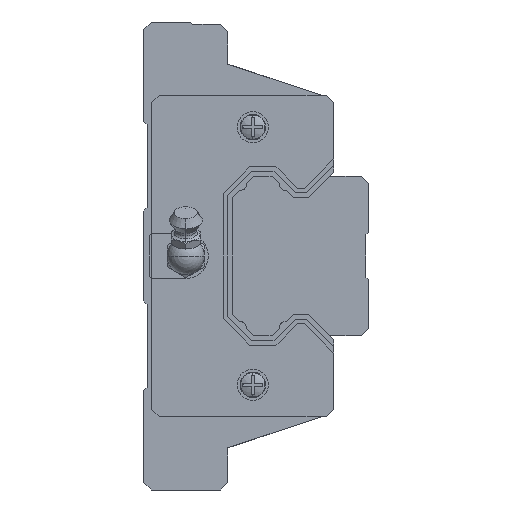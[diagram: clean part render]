
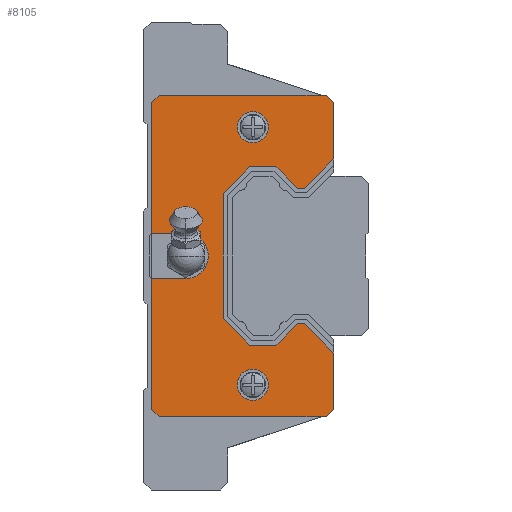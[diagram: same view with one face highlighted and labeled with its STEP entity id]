
A CAD part, left-side view. The second image highlights one B-rep face of the part: STEP entity #8105.
In plain terms, the highlighted planar face has unit normal (-1, 0, 0) as drawn and (1, 0, 0) by its records, which use the part's own axes.
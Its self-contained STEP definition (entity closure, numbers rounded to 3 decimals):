
#6867=DIRECTION('',(0.,0.,-1.));
#6868=VECTOR('',#6867,11.995);
#6869=CARTESIAN_POINT('',(3.,7.4,32.73));
#6870=LINE('',#6869,#6868);
#6923=DIRECTION('',(0.,-0.707,0.707));
#6924=VECTOR('',#6923,8.812);
#6925=CARTESIAN_POINT('',(3.,13.631,14.504));
#6926=LINE('',#6925,#6924);
#6927=DIRECTION('',(0.,0.707,0.707));
#6928=VECTOR('',#6927,2.291);
#6929=CARTESIAN_POINT('',(3.,7.4,32.73));
#6930=LINE('',#6929,#6928);
#6931=DIRECTION('',(0.,0.707,-0.707));
#6932=VECTOR('',#6931,2.291);
#6933=CARTESIAN_POINT('',(3.,44.68,34.35));
#6934=LINE('',#6933,#6932);
#6935=DIRECTION('',(0.,-1.,0.));
#6936=VECTOR('',#6935,7.3);
#6937=CARTESIAN_POINT('',(3.,46.3,4.8));
#6938=LINE('',#6937,#6936);
#6939=CARTESIAN_POINT('',(3.,39.,0.));
#6940=DIRECTION('',(1.,0.,0.));
#6941=DIRECTION('',(0.,0.,1.));
#6942=AXIS2_PLACEMENT_3D('',#6939,#6940,#6941);
#6944=DIRECTION('',(0.,1.,0.));
#6945=VECTOR('',#6944,7.3);
#6946=CARTESIAN_POINT('',(3.,39.,-4.8));
#6947=LINE('',#6946,#6945);
#6948=DIRECTION('',(0.,-0.707,-0.707));
#6949=VECTOR('',#6948,2.291);
#6950=CARTESIAN_POINT('',(3.,46.3,-32.73));
#6951=LINE('',#6950,#6949);
#6952=DIRECTION('',(0.,-0.707,0.707));
#6953=VECTOR('',#6952,2.291);
#6954=CARTESIAN_POINT('',(3.,9.02,-34.35));
#6955=LINE('',#6954,#6953);
#6956=DIRECTION('',(0.,0.707,0.707));
#6957=VECTOR('',#6956,8.812);
#6958=CARTESIAN_POINT('',(3.,7.4,-20.735));
#6959=LINE('',#6958,#6957);
#6960=DIRECTION('',(0.,1.,0.));
#6961=VECTOR('',#6960,1.564);
#6962=CARTESIAN_POINT('',(3.,13.631,-14.504));
#6963=LINE('',#6962,#6961);
#6964=DIRECTION('',(0.,0.707,-0.707));
#6965=VECTOR('',#6964,6.415);
#6966=CARTESIAN_POINT('',(3.,15.195,-14.504));
#6967=LINE('',#6966,#6965);
#6968=DIRECTION('',(0.,1.,0.));
#6969=VECTOR('',#6968,5.578);
#6970=CARTESIAN_POINT('',(3.,19.731,-19.04));
#6971=LINE('',#6970,#6969);
#6972=DIRECTION('',(0.,0.707,0.707));
#6973=VECTOR('',#6972,8.105);
#6974=CARTESIAN_POINT('',(3.,25.309,-19.04));
#6975=LINE('',#6974,#6973);
#6976=DIRECTION('',(0.,0.,1.));
#6977=VECTOR('',#6976,26.618);
#6978=CARTESIAN_POINT('',(3.,31.04,-13.309));
#6979=LINE('',#6978,#6977);
#6980=DIRECTION('',(0.,-0.707,0.707));
#6981=VECTOR('',#6980,8.105);
#6982=CARTESIAN_POINT('',(3.,31.04,13.309));
#6983=LINE('',#6982,#6981);
#6984=DIRECTION('',(0.,-1.,0.));
#6985=VECTOR('',#6984,5.578);
#6986=CARTESIAN_POINT('',(3.,25.309,19.04));
#6987=LINE('',#6986,#6985);
#6988=DIRECTION('',(0.,-0.707,-0.707));
#6989=VECTOR('',#6988,6.415);
#6990=CARTESIAN_POINT('',(3.,19.731,19.04));
#6991=LINE('',#6990,#6989);
#6992=DIRECTION('',(0.,-1.,0.));
#6993=VECTOR('',#6992,1.564);
#6994=CARTESIAN_POINT('',(3.,15.195,14.504));
#6995=LINE('',#6994,#6993);
#6996=CARTESIAN_POINT('',(3.,24.68,27.54));
#6997=DIRECTION('',(1.,0.,0.));
#6998=DIRECTION('',(0.,0.,-1.));
#6999=AXIS2_PLACEMENT_3D('',#6996,#6997,#6998);
#7001=CARTESIAN_POINT('',(3.,24.68,27.54));
#7002=DIRECTION('',(1.,0.,0.));
#7003=DIRECTION('',(0.,0.,1.));
#7004=AXIS2_PLACEMENT_3D('',#7001,#7002,#7003);
#7006=CARTESIAN_POINT('',(3.,24.68,-27.54));
#7007=DIRECTION('',(1.,0.,0.));
#7008=DIRECTION('',(0.,0.,-1.));
#7009=AXIS2_PLACEMENT_3D('',#7006,#7007,#7008);
#7011=CARTESIAN_POINT('',(3.,24.68,-27.54));
#7012=DIRECTION('',(1.,0.,0.));
#7013=DIRECTION('',(0.,0.,1.));
#7014=AXIS2_PLACEMENT_3D('',#7011,#7012,#7013);
#7280=DIRECTION('',(0.,0.,-1.));
#7281=VECTOR('',#7280,11.995);
#7282=CARTESIAN_POINT('',(3.,7.4,-20.735));
#7283=LINE('',#7282,#7281);
#7356=DIRECTION('',(0.,1.,0.));
#7357=VECTOR('',#7356,35.66);
#7358=CARTESIAN_POINT('',(3.,9.02,-34.35));
#7359=LINE('',#7358,#7357);
#7368=DIRECTION('',(0.,0.,1.));
#7369=VECTOR('',#7368,27.93);
#7370=CARTESIAN_POINT('',(3.,46.3,4.8));
#7371=LINE('',#7370,#7369);
#7376=DIRECTION('',(0.,0.,1.));
#7377=VECTOR('',#7376,27.93);
#7378=CARTESIAN_POINT('',(3.,46.3,-32.73));
#7379=LINE('',#7378,#7377);
#7392=DIRECTION('',(0.,-1.,0.));
#7393=VECTOR('',#7392,35.66);
#7394=CARTESIAN_POINT('',(3.,44.68,34.35));
#7395=LINE('',#7394,#7393);
#7657=CARTESIAN_POINT('',(3.,7.4,32.73));
#7658=VERTEX_POINT('',#7657);
#7659=CARTESIAN_POINT('',(3.,7.4,20.735));
#7660=VERTEX_POINT('',#7659);
#7703=CARTESIAN_POINT('',(3.,13.631,14.504));
#7704=VERTEX_POINT('',#7703);
#7705=CARTESIAN_POINT('',(3.,9.02,34.35));
#7706=VERTEX_POINT('',#7705);
#7707=CARTESIAN_POINT('',(3.,44.68,34.35));
#7708=VERTEX_POINT('',#7707);
#7709=CARTESIAN_POINT('',(3.,46.3,32.73));
#7710=VERTEX_POINT('',#7709);
#7711=CARTESIAN_POINT('',(3.,46.3,4.8));
#7712=VERTEX_POINT('',#7711);
#7713=CARTESIAN_POINT('',(3.,39.,4.8));
#7714=VERTEX_POINT('',#7713);
#7715=CARTESIAN_POINT('',(3.,39.,-4.8));
#7716=VERTEX_POINT('',#7715);
#7717=CARTESIAN_POINT('',(3.,46.3,-4.8));
#7718=VERTEX_POINT('',#7717);
#7719=CARTESIAN_POINT('',(3.,46.3,-32.73));
#7720=VERTEX_POINT('',#7719);
#7721=CARTESIAN_POINT('',(3.,44.68,-34.35));
#7722=VERTEX_POINT('',#7721);
#7723=CARTESIAN_POINT('',(3.,9.02,-34.35));
#7724=VERTEX_POINT('',#7723);
#7725=CARTESIAN_POINT('',(3.,7.4,-32.73));
#7726=VERTEX_POINT('',#7725);
#7727=CARTESIAN_POINT('',(3.,7.4,-20.735));
#7728=VERTEX_POINT('',#7727);
#7729=CARTESIAN_POINT('',(3.,13.631,-14.504));
#7730=VERTEX_POINT('',#7729);
#7731=CARTESIAN_POINT('',(3.,15.195,-14.504));
#7732=VERTEX_POINT('',#7731);
#7733=CARTESIAN_POINT('',(3.,19.731,-19.04));
#7734=VERTEX_POINT('',#7733);
#7735=CARTESIAN_POINT('',(3.,25.309,-19.04));
#7736=VERTEX_POINT('',#7735);
#7737=CARTESIAN_POINT('',(3.,31.04,-13.309));
#7738=VERTEX_POINT('',#7737);
#7739=CARTESIAN_POINT('',(3.,31.04,13.309));
#7740=VERTEX_POINT('',#7739);
#7741=CARTESIAN_POINT('',(3.,25.309,19.04));
#7742=VERTEX_POINT('',#7741);
#7743=CARTESIAN_POINT('',(3.,19.731,19.04));
#7744=VERTEX_POINT('',#7743);
#7745=CARTESIAN_POINT('',(3.,15.195,14.504));
#7746=VERTEX_POINT('',#7745);
#7747=CARTESIAN_POINT('',(3.,24.68,24.215));
#7748=CARTESIAN_POINT('',(3.,24.68,30.865));
#7749=VERTEX_POINT('',#7747);
#7750=VERTEX_POINT('',#7748);
#7751=CARTESIAN_POINT('',(3.,24.68,-30.865));
#7752=CARTESIAN_POINT('',(3.,24.68,-24.215));
#7753=VERTEX_POINT('',#7751);
#7754=VERTEX_POINT('',#7752);
#8040=CARTESIAN_POINT('',(3.,0.,0.));
#8041=DIRECTION('',(1.,0.,0.));
#8042=DIRECTION('',(0.,0.,1.));
#8043=AXIS2_PLACEMENT_3D('',#8040,#8041,#8042);
#8044=PLANE('',#8043);
#8045=ORIENTED_EDGE('',*,*,#8031,.T.);
#8046=ORIENTED_EDGE('',*,*,#7965,.F.);
#8048=ORIENTED_EDGE('',*,*,#8047,.T.);
#8050=ORIENTED_EDGE('',*,*,#8049,.F.);
#8052=ORIENTED_EDGE('',*,*,#8051,.T.);
#8054=ORIENTED_EDGE('',*,*,#8053,.F.);
#8056=ORIENTED_EDGE('',*,*,#8055,.T.);
#8058=ORIENTED_EDGE('',*,*,#8057,.T.);
#8060=ORIENTED_EDGE('',*,*,#8059,.T.);
#8062=ORIENTED_EDGE('',*,*,#8061,.F.);
#8064=ORIENTED_EDGE('',*,*,#8063,.T.);
#8066=ORIENTED_EDGE('',*,*,#8065,.F.);
#8068=ORIENTED_EDGE('',*,*,#8067,.T.);
#8070=ORIENTED_EDGE('',*,*,#8069,.F.);
#8072=ORIENTED_EDGE('',*,*,#8071,.T.);
#8074=ORIENTED_EDGE('',*,*,#8073,.T.);
#8076=ORIENTED_EDGE('',*,*,#8075,.T.);
#8078=ORIENTED_EDGE('',*,*,#8077,.T.);
#8080=ORIENTED_EDGE('',*,*,#8079,.T.);
#8082=ORIENTED_EDGE('',*,*,#8081,.T.);
#8084=ORIENTED_EDGE('',*,*,#8083,.T.);
#8086=ORIENTED_EDGE('',*,*,#8085,.T.);
#8088=ORIENTED_EDGE('',*,*,#8087,.T.);
#8090=ORIENTED_EDGE('',*,*,#8089,.T.);
#8091=EDGE_LOOP('',(#8045,#8046,#8048,#8050,#8052,#8054,#8056,#8058,#8060,#8062,
#8064,#8066,#8068,#8070,#8072,#8074,#8076,#8078,#8080,#8082,#8084,#8086,#8088,
#8090));
#8092=FACE_OUTER_BOUND('',#8091,.F.);
#8094=ORIENTED_EDGE('',*,*,#8093,.T.);
#8096=ORIENTED_EDGE('',*,*,#8095,.T.);
#8097=EDGE_LOOP('',(#8094,#8096));
#8098=FACE_BOUND('',#8097,.F.);
#8100=ORIENTED_EDGE('',*,*,#8099,.T.);
#8102=ORIENTED_EDGE('',*,*,#8101,.T.);
#8103=EDGE_LOOP('',(#8100,#8102));
#8104=FACE_BOUND('',#8103,.F.);
#8105=ADVANCED_FACE('',(#8092,#8098,#8104),#8044,.T.);
#6943=CIRCLE('',#6942,4.8);
#7000=CIRCLE('',#6999,3.325);
#7005=CIRCLE('',#7004,3.325);
#7010=CIRCLE('',#7009,3.325);
#7015=CIRCLE('',#7014,3.325);
#7965=EDGE_CURVE('',#7658,#7660,#6870,.T.);
#8031=EDGE_CURVE('',#7704,#7660,#6926,.T.);
#8047=EDGE_CURVE('',#7658,#7706,#6930,.T.);
#8049=EDGE_CURVE('',#7708,#7706,#7395,.T.);
#8051=EDGE_CURVE('',#7708,#7710,#6934,.T.);
#8053=EDGE_CURVE('',#7712,#7710,#7371,.T.);
#8055=EDGE_CURVE('',#7712,#7714,#6938,.T.);
#8057=EDGE_CURVE('',#7714,#7716,#6943,.T.);
#8059=EDGE_CURVE('',#7716,#7718,#6947,.T.);
#8061=EDGE_CURVE('',#7720,#7718,#7379,.T.);
#8063=EDGE_CURVE('',#7720,#7722,#6951,.T.);
#8065=EDGE_CURVE('',#7724,#7722,#7359,.T.);
#8067=EDGE_CURVE('',#7724,#7726,#6955,.T.);
#8069=EDGE_CURVE('',#7728,#7726,#7283,.T.);
#8071=EDGE_CURVE('',#7728,#7730,#6959,.T.);
#8073=EDGE_CURVE('',#7730,#7732,#6963,.T.);
#8075=EDGE_CURVE('',#7732,#7734,#6967,.T.);
#8077=EDGE_CURVE('',#7734,#7736,#6971,.T.);
#8079=EDGE_CURVE('',#7736,#7738,#6975,.T.);
#8081=EDGE_CURVE('',#7738,#7740,#6979,.T.);
#8083=EDGE_CURVE('',#7740,#7742,#6983,.T.);
#8085=EDGE_CURVE('',#7742,#7744,#6987,.T.);
#8087=EDGE_CURVE('',#7744,#7746,#6991,.T.);
#8089=EDGE_CURVE('',#7746,#7704,#6995,.T.);
#8093=EDGE_CURVE('',#7749,#7750,#7000,.T.);
#8095=EDGE_CURVE('',#7750,#7749,#7005,.T.);
#8099=EDGE_CURVE('',#7753,#7754,#7010,.T.);
#8101=EDGE_CURVE('',#7754,#7753,#7015,.T.);
